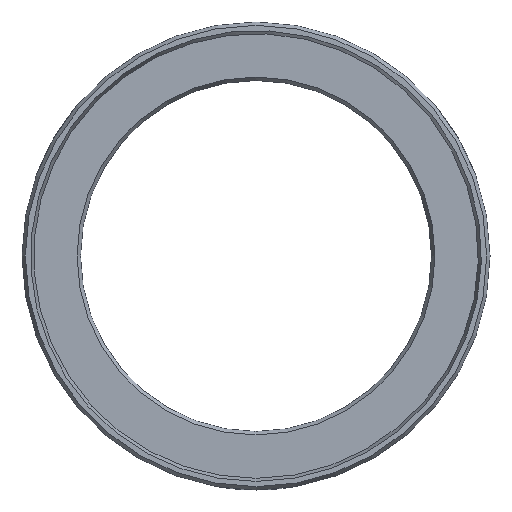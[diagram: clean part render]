
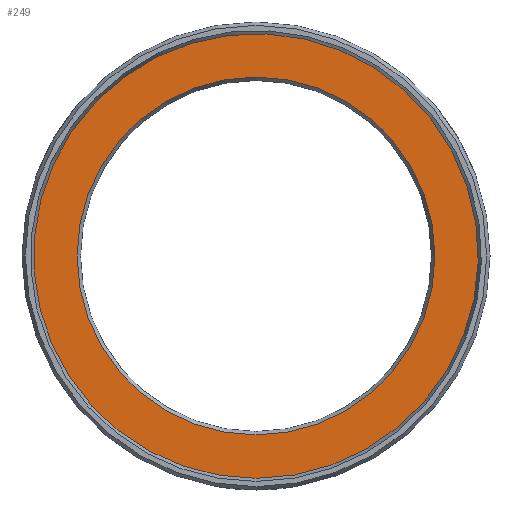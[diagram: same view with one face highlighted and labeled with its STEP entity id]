
A CAD part, left-side view. The second image highlights one B-rep face of the part: STEP entity #249.
In plain terms, the highlighted planar face has unit normal (-1, 0, 0).
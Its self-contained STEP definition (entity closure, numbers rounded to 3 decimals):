
#106=PLANE('',#985);
#249=ADVANCED_FACE('',(#309,#310),#106,.T.);
#309=FACE_BOUND('',#364,.T.);
#310=FACE_BOUND('',#365,.T.);
#364=EDGE_LOOP('',(#571));
#365=EDGE_LOOP('',(#572));
#571=ORIENTED_EDGE('',*,*,#816,.T.);
#572=ORIENTED_EDGE('',*,*,#815,.F.);
#701=VERTEX_POINT('',#1611);
#702=VERTEX_POINT('',#1614);
#815=EDGE_CURVE('',#701,#701,#881,.T.);
#816=EDGE_CURVE('',#702,#702,#882,.T.);
#881=CIRCLE('',#982,38.);
#882=CIRCLE('',#984,30.577);
#982=AXIS2_PLACEMENT_3D('',#1610,#1195,#1196);
#984=AXIS2_PLACEMENT_3D('',#1613,#1199,#1200);
#985=AXIS2_PLACEMENT_3D('',#1615,#1201,#1202);
#1195=DIRECTION('',(1.,0.,0.));
#1196=DIRECTION('',(0.,0.,-1.));
#1199=DIRECTION('',(1.,0.,0.));
#1200=DIRECTION('',(0.,0.,1.));
#1201=DIRECTION('',(-1.,0.,0.));
#1202=DIRECTION('',(0.,0.,1.));
#1610=CARTESIAN_POINT('',(0.,0.,0.));
#1611=CARTESIAN_POINT('',(0.,0.,-38.));
#1613=CARTESIAN_POINT('',(0.,0.,0.));
#1614=CARTESIAN_POINT('',(0.,0.,30.577));
#1615=CARTESIAN_POINT('',(0.,38.,0.));
